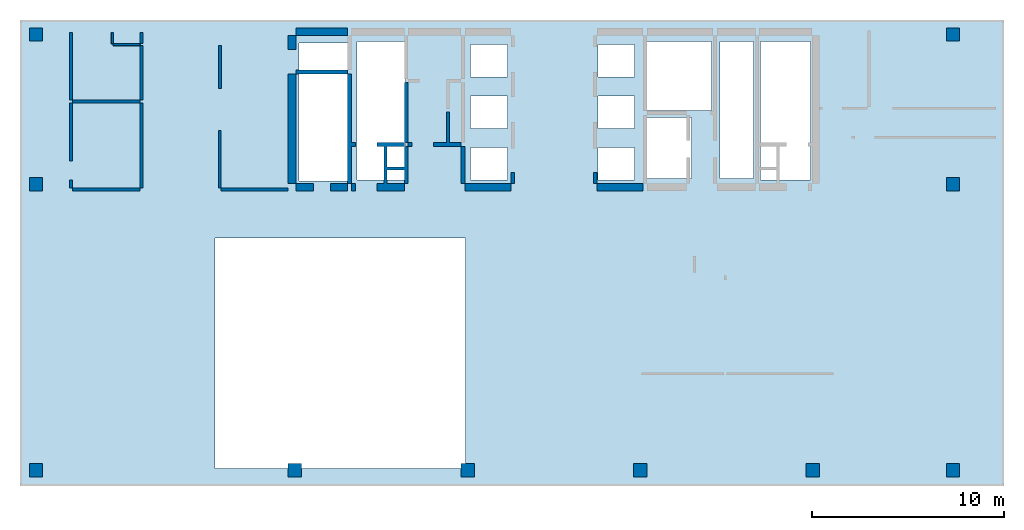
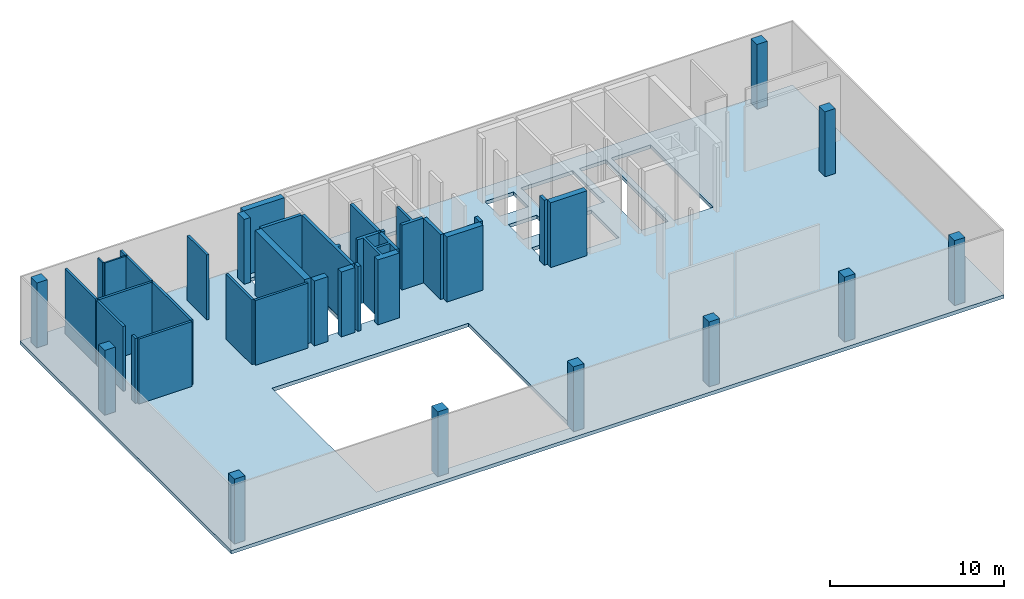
# One storey, part 1 of 3: 30 walls, 10 columns, 1 slab.
"""IFC4 building model written with IfcOpenShell, lengths in millimetres."""

from ifc_helpers import new_model, si_unit, frame, origin, place, context, project, spatial, triangles, element, save


model = new_model("IFC4")

# Units and contexts
model_context = context("Model", 3, precision=0.001, world=origin())
ifc_project = project(units=[si_unit("LENGTHUNIT", "METRE", prefix="MILLI"), si_unit("AREAUNIT", "SQUARE_METRE"), si_unit("VOLUMEUNIT", "CUBIC_METRE")], contexts=[model_context])

# Site, building, storey
site_placement = place(None, origin())
site = spatial("IfcSite", under=ifc_project, at=site_placement, Name="Site", CompositionType="ELEMENT")
building_placement = place(site_placement, origin())
building = spatial("IfcBuilding", under=site, at=building_placement, Name="INNOCEAN", CompositionType="ELEMENT")
storey_placement = place(building_placement, frame((0.0, 0.0, 11000.0)))
storey = spatial("IfcBuildingStorey", under=building, at=storey_placement, Name="F03", CompositionType="ELEMENT", Elevation=11000.0)

# Columns
column_1_placement = place(storey_placement, origin())
element("IfcColumn", 1, at=column_1_placement, inside=storey, Name="F03_Columns_F03_001", context=model_context, shape_type="Tessellation", body=[
    triangles([(40114.8, 2023.7, 0.0), (40114.8, 2722.3, 4550.0), (40114.8, 2722.3, 0.0), (40114.8, 2023.7, 4550.0), (40813.0, 2722.3, 4550.0), (40813.0, 2023.7, 0.0), (40813.0, 2722.3, 0.0), (40813.0, 2023.7, 4550.0)], [[1, 2, 3], [1, 4, 2], [5, 6, 7], [8, 6, 5], [6, 8, 1], [1, 8, 4], [5, 7, 3], [5, 3, 2], [3, 7, 1], [1, 7, 6], [5, 2, 4], [5, 4, 8]], closed=True),
])
column_2_placement = place(storey_placement, origin())
element("IfcColumn", 2, at=column_2_placement, inside=storey, Name="F03_Columns_F03_002", context=model_context, shape_type="Tessellation", body=[
    triangles([(13129.0, 2023.7, 0.0), (13129.0, 2722.3, 4550.0), (13129.0, 2722.3, 0.0), (13129.0, 2023.7, 4550.0), (13827.2, 2722.3, 4550.0), (13827.2, 2023.7, 0.0), (13827.2, 2722.3, 0.0), (13827.2, 2023.7, 4550.0)], [[1, 2, 3], [1, 4, 2], [5, 6, 7], [8, 6, 5], [6, 8, 1], [1, 8, 4], [5, 7, 3], [5, 3, 2], [3, 7, 1], [1, 7, 6], [5, 2, 4], [5, 4, 8]], closed=True),
])
column_3_placement = place(storey_placement, origin())
element("IfcColumn", 3, at=column_3_placement, inside=storey, Name="F03_Columns_F03_003", context=model_context, shape_type="Tessellation", body=[
    triangles([(-363.9, 16922.4, 0.0), (-363.9, 16922.4, 4550.0), (-363.9, 17620.9, 0.0), (-363.9, 17620.9, 4550.0), (334.3, 16922.4, 4550.0), (334.3, 16922.4, 0.0), (334.3, 17620.9, 0.0), (334.3, 17620.9, 4550.0)], [[1, 2, 3], [3, 2, 4], [5, 6, 7], [5, 7, 8], [6, 5, 1], [1, 5, 2], [8, 7, 3], [8, 3, 4], [3, 7, 1], [1, 7, 6], [8, 4, 2], [8, 2, 5]], closed=True),
])
column_4_placement = place(storey_placement, origin())
element("IfcColumn", 4, at=column_4_placement, inside=storey, Name="F03_Columns_F03_004", context=model_context, shape_type="Tessellation", body=[
    triangles([(-363.9, 2023.7, 0.0), (-363.9, 2722.3, 4550.0), (-363.9, 2722.3, 0.0), (-363.9, 2023.7, 4550.0), (334.3, 2722.3, 4550.0), (334.3, 2023.7, 0.0), (334.3, 2722.3, 0.0), (334.3, 2023.7, 4550.0)], [[1, 2, 3], [1, 4, 2], [5, 6, 7], [8, 6, 5], [6, 8, 1], [1, 8, 4], [5, 7, 3], [5, 3, 2], [3, 7, 1], [1, 7, 6], [5, 2, 4], [5, 4, 8]], closed=True),
])
column_5_placement = place(storey_placement, origin())
element("IfcColumn", 5, at=column_5_placement, inside=storey, Name="F03_Columns_F03_005", context=model_context, shape_type="Tessellation", body=[
    triangles([(-363.9, 24721.0, 0.0), (-363.9, 24721.0, 4550.0), (-363.9, 25419.5, 0.0), (-363.9, 25419.5, 4550.0), (334.3, 24721.0, 4550.0), (334.3, 24721.0, 0.0), (334.3, 25419.5, 0.0), (334.3, 25419.5, 4550.0)], [[1, 2, 3], [3, 2, 4], [5, 6, 7], [5, 7, 8], [6, 5, 1], [1, 5, 2], [8, 7, 3], [8, 3, 4], [3, 7, 1], [1, 7, 6], [8, 4, 2], [8, 2, 5]], closed=True),
])
column_6_placement = place(storey_placement, origin())
element("IfcColumn", 6, at=column_6_placement, inside=storey, Name="F03_Columns_F03_006", context=model_context, shape_type="Tessellation", body=[
    triangles([(31128.0, 2023.7, 0.0), (31128.0, 2722.3, 4550.0), (31128.0, 2722.3, 0.0), (31128.0, 2023.7, 4550.0), (31826.2, 2722.3, 4550.0), (31826.2, 2023.7, 0.0), (31826.2, 2722.3, 0.0), (31826.2, 2023.7, 4550.0)], [[1, 2, 3], [1, 4, 2], [5, 6, 7], [8, 6, 5], [6, 8, 1], [1, 8, 4], [5, 7, 3], [5, 3, 2], [3, 7, 1], [1, 7, 6], [5, 2, 4], [5, 4, 8]], closed=True),
])
column_7_placement = place(storey_placement, origin())
element("IfcColumn", 7, at=column_7_placement, inside=storey, Name="F03_Columns_F03_007", context=model_context, shape_type="Tessellation", body=[
    triangles([(22128.5, 2023.7, 0.0), (22128.5, 2722.3, 4550.0), (22128.5, 2722.3, 0.0), (22128.5, 2023.7, 4550.0), (22826.7, 2722.3, 4550.0), (22826.7, 2023.7, 0.0), (22826.7, 2722.3, 0.0), (22826.7, 2023.7, 4550.0)], [[1, 2, 3], [1, 4, 2], [5, 6, 7], [8, 6, 5], [6, 8, 1], [1, 8, 4], [5, 7, 3], [5, 3, 2], [3, 7, 1], [1, 7, 6], [5, 2, 4], [5, 4, 8]], closed=True),
])
column_8_placement = place(storey_placement, origin())
element("IfcColumn", 8, at=column_8_placement, inside=storey, Name="F03_Columns_F03_008", context=model_context, shape_type="Tessellation", body=[
    triangles([(47413.4, 24721.0, 0.0), (47413.4, 24721.0, 4550.0), (47413.4, 25419.5, 0.0), (47413.4, 25419.5, 4550.0), (48111.6, 24721.0, 4550.0), (48111.6, 24721.0, 0.0), (48111.6, 25419.5, 0.0), (48111.6, 25419.5, 4550.0)], [[1, 2, 3], [3, 2, 4], [5, 6, 7], [5, 7, 8], [6, 5, 1], [1, 5, 2], [8, 7, 3], [8, 3, 4], [1, 3, 6], [3, 7, 6], [4, 2, 5], [8, 4, 5]], closed=True),
])
column_9_placement = place(storey_placement, origin())
element("IfcColumn", 9, at=column_9_placement, inside=storey, Name="F03_Columns_F03_009", context=model_context, shape_type="Tessellation", body=[
    triangles([(47413.4, 16922.4, 0.0), (47413.4, 16922.4, 4550.0), (47413.4, 17620.9, 0.0), (47413.4, 17620.9, 4550.0), (48111.6, 16922.4, 4550.0), (48111.6, 16922.4, 0.0), (48111.6, 17620.9, 0.0), (48111.6, 17620.9, 4550.0)], [[1, 2, 3], [3, 2, 4], [5, 6, 7], [5, 7, 8], [6, 5, 1], [1, 5, 2], [8, 7, 3], [8, 3, 4], [1, 3, 6], [3, 7, 6], [4, 2, 5], [8, 4, 5]], closed=True),
])
column_10_placement = place(storey_placement, origin())
element("IfcColumn", 10, at=column_10_placement, inside=storey, Name="F03_Columns_F03_010", context=model_context, shape_type="Tessellation", body=[
    triangles([(47413.4, 2023.7, 0.0), (47413.4, 2722.3, 4550.0), (47413.4, 2722.3, 0.0), (47413.4, 2023.7, 4550.0), (48111.6, 2722.3, 4550.0), (48111.6, 2023.7, 0.0), (48111.6, 2722.3, 0.0), (48111.6, 2023.7, 4550.0)], [[1, 2, 3], [1, 4, 2], [5, 6, 7], [8, 6, 5], [6, 8, 1], [1, 8, 4], [5, 7, 3], [5, 3, 2], [3, 7, 1], [1, 7, 6], [5, 2, 4], [5, 4, 8]], closed=True),
])

# Slab
slab_placement = place(storey_placement, origin())
element("IfcSlab", 11, at=slab_placement, inside=storey, Name="F03_Slab_F03_001", context=model_context, shape_type="Tessellation", body=[
    triangles([(-846.215139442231, 25825.974025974, 0.0), (50420.3187250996, 25825.974025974, -250.0), (-846.215139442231, 25825.974025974, -250.0), (50420.3187250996, 25825.974025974, 0.0), (-846.215139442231, 1552.38095238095, 0.0), (-846.215139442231, 1552.38095238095, -250.0), (50420.3187250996, 1552.38095238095, 0.0), (50420.3187250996, 1552.38095238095, -250.0), (22354.1832669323, 14465.367965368, 0.0), (9308.36653386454, 14465.367965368, 0.0), (9308.36653386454, 14465.367965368, -250.0), (22354.1832669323, 14465.367965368, -250.0), (22354.1832669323, 2469.69696969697, 0.0), (22354.1832669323, 2469.69696969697, -250.0), (9308.36653386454, 2469.69696969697, 0.0), (9308.36653386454, 2469.69696969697, -250.0), (31168.9243027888, 19193.0735930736, 0.0), (29264.9402390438, 19193.0735930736, 0.0), (29264.9402390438, 19193.0735930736, -250.0), (31168.9243027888, 19193.0735930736, -250.0), (29264.9402390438, 17499.5670995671, 0.0), (29264.9402390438, 17499.5670995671, -250.0), (31168.9243027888, 17499.5670995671, 0.0), (31168.9243027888, 17499.5670995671, -250.0), (40336.2549800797, 24696.9696969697, -250.0), (37727.0916334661, 24696.9696969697, 0.0), (37727.0916334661, 24696.9696969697, -250.0), (40336.2549800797, 24696.9696969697, 0.0), (37727.0916334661, 17499.5670995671, 0.0), (37727.0916334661, 17499.5670995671, -250.0), (40336.2549800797, 17499.5670995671, 0.0), (40336.2549800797, 17499.5670995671, -250.0), (37374.5019920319, 24696.9696969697, 0.0), (35611.5537848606, 24696.9696969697, 0.0), (35611.5537848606, 24696.9696969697, -250.0), (37374.5019920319, 24696.9696969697, -250.0), (35611.5537848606, 17570.1298701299, 0.0), (35611.5537848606, 17570.1298701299, -250.0), (37374.5019920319, 17570.1298701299, 0.0), (37374.5019920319, 17570.1298701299, -250.0), (34130.6772908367, 20745.4545454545, -250.0), (31733.0677290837, 20745.4545454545, 0.0), (31733.0677290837, 20745.4545454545, -250.0), (34130.6772908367, 20745.4545454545, 0.0), (31733.0677290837, 17570.1298701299, 0.0), (31733.0677290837, 17570.1298701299, -250.0), (34130.6772908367, 17570.1298701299, 0.0), (34130.6772908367, 17570.1298701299, -250.0), (35188.4462151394, 24696.9696969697, 0.0), (31733.0677290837, 24696.9696969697, 0.0), (31733.0677290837, 24696.9696969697, -250.0), (35188.4462151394, 24696.9696969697, -250.0), (31733.0677290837, 21098.2683982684, 0.0), (31733.0677290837, 21098.2683982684, -250.0), (35188.4462151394, 21098.2683982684, 0.0), (35188.4462151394, 21098.2683982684, -250.0), (31168.9243027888, 21874.4588744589, 0.0), (29264.9402390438, 21874.4588744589, 0.0), (29264.9402390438, 21874.4588744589, -250.0), (31168.9243027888, 21874.4588744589, -250.0), (29264.9402390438, 20180.9523809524, 0.0), (29264.9402390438, 20180.9523809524, -250.0), (31168.9243027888, 20180.9523809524, 0.0), (31168.9243027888, 20180.9523809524, -250.0), (31168.9243027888, 24555.8441558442, 0.0), (29264.9402390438, 24555.8441558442, 0.0), (29264.9402390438, 24555.8441558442, -250.0), (31168.9243027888, 24555.8441558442, -250.0), (29264.9402390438, 22862.3376623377, 0.0), (29264.9402390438, 22862.3376623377, -250.0), (31168.9243027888, 22862.3376623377, 0.0), (31168.9243027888, 22862.3376623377, -250.0), (24540.2390438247, 19193.0735930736, -250.0), (22636.2549800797, 19193.0735930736, 0.0), (22636.2549800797, 19193.0735930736, -250.0), (24540.2390438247, 19193.0735930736, 0.0), (22636.2549800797, 17499.5670995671, 0.0), (22636.2549800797, 17499.5670995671, -250.0), (24540.2390438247, 17499.5670995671, 0.0), (24540.2390438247, 17499.5670995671, -250.0), (24540.2390438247, 21874.4588744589, -250.0), (22636.2549800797, 21874.4588744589, 0.0), (22636.2549800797, 21874.4588744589, -250.0), (24540.2390438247, 21874.4588744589, 0.0), (22636.2549800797, 20180.9523809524, 0.0), (22636.2549800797, 20180.9523809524, -250.0), (24540.2390438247, 20180.9523809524, 0.0), (24540.2390438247, 20180.9523809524, -250.0), (19251.3944223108, 24696.9696969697, 0.0), (16712.7490039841, 24696.9696969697, 0.0), (16712.7490039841, 24696.9696969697, -250.0), (19251.3944223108, 24696.9696969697, -250.0), (16712.7490039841, 17499.5670995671, 0.0), (16712.7490039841, 17499.5670995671, -250.0), (19251.3944223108, 17499.5670995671, 0.0), (19251.3944223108, 17499.5670995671, -250.0), (24540.2390438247, 24555.8441558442, -250.0), (22636.2549800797, 24555.8441558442, 0.0), (22636.2549800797, 24555.8441558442, -250.0), (24540.2390438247, 24555.8441558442, 0.0), (22636.2549800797, 22862.3376623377, 0.0), (22636.2549800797, 22862.3376623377, -250.0), (24540.2390438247, 22862.3376623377, 0.0), (24540.2390438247, 22862.3376623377, -250.0), (16219.1235059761, 24626.4069264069, 0.0), (13680.4780876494, 24626.4069264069, 0.0), (13680.4780876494, 24626.4069264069, -250.0), (16219.1235059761, 24626.4069264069, -250.0), (13680.4780876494, 17429.0043290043, 0.0), (13680.4780876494, 17429.0043290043, -250.0), (16219.1235059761, 17429.0043290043, 0.0), (16219.1235059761, 17429.0043290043, -250.0)], [[1, 2, 3], [1, 4, 2], [5, 1, 6], [6, 1, 3], [4, 7, 2], [2, 7, 8], [7, 6, 8], [7, 5, 6], [9, 10, 11], [9, 11, 12], [13, 9, 12], [13, 12, 14], [15, 13, 14], [15, 14, 16], [10, 15, 16], [10, 16, 11], [17, 18, 19], [17, 19, 20], [18, 21, 22], [18, 22, 19], [23, 17, 20], [23, 20, 24], [21, 23, 24], [21, 24, 22], [25, 26, 27], [28, 26, 25], [26, 29, 30], [26, 30, 27], [31, 28, 25], [31, 25, 32], [30, 31, 32], [29, 31, 30], [33, 34, 35], [33, 35, 36], [34, 37, 38], [34, 38, 35], [39, 33, 36], [39, 36, 40], [37, 39, 40], [37, 40, 38], [41, 42, 43], [44, 42, 41], [42, 45, 46], [42, 46, 43], [47, 44, 41], [47, 41, 48], [46, 47, 48], [45, 47, 46], [49, 50, 51], [49, 51, 52], [50, 53, 54], [50, 54, 51], [55, 49, 52], [55, 52, 56], [53, 55, 56], [53, 56, 54], [57, 58, 59], [57, 59, 60], [58, 61, 62], [58, 62, 59], [63, 57, 60], [63, 60, 64], [61, 63, 64], [61, 64, 62], [65, 66, 67], [65, 67, 68], [66, 69, 70], [66, 70, 67], [71, 65, 68], [71, 68, 72], [69, 71, 72], [69, 72, 70], [73, 74, 75], [76, 74, 73], [74, 77, 78], [74, 78, 75], [79, 76, 73], [79, 73, 80], [78, 79, 80], [77, 79, 78], [81, 82, 83], [84, 82, 81], [82, 85, 86], [82, 86, 83], [87, 84, 81], [87, 81, 88], [86, 87, 88], [85, 87, 86], [89, 90, 91], [89, 91, 92], [90, 93, 94], [90, 94, 91], [95, 89, 92], [95, 92, 96], [93, 95, 96], [93, 96, 94], [97, 98, 99], [100, 98, 97], [98, 101, 102], [98, 102, 99], [103, 100, 97], [103, 97, 104], [102, 103, 104], [101, 103, 102], [105, 106, 107], [105, 107, 108], [106, 109, 110], [106, 110, 107], [111, 105, 108], [111, 108, 112], [109, 111, 112], [109, 112, 110], [4, 31, 7], [31, 29, 7], [29, 13, 7], [39, 37, 29], [29, 37, 13], [37, 47, 13], [4, 28, 31], [47, 45, 13], [45, 23, 13], [37, 44, 47], [55, 44, 37], [45, 17, 23], [23, 21, 13], [17, 42, 63], [44, 53, 42], [42, 53, 63], [34, 49, 55], [63, 18, 17], [53, 57, 63], [63, 61, 18], [53, 71, 57], [21, 9, 13], [21, 79, 9], [50, 65, 71], [71, 69, 57], [57, 69, 58], [18, 76, 21], [61, 76, 18], [21, 76, 79], [79, 77, 9], [50, 66, 65], [61, 87, 76], [58, 87, 61], [58, 84, 87], [87, 85, 76], [76, 85, 74], [77, 95, 9], [74, 95, 77], [85, 95, 74], [69, 103, 58], [58, 103, 84], [85, 82, 95], [103, 82, 84], [66, 100, 69], [69, 100, 103], [103, 101, 82], [95, 93, 9], [93, 111, 9], [15, 5, 13], [111, 10, 9], [109, 10, 111], [15, 10, 5], [98, 89, 101], [82, 89, 95], [101, 89, 82], [90, 105, 93], [93, 105, 111], [90, 106, 105], [109, 106, 10], [10, 1, 5], [106, 1, 10], [4, 1, 28], [28, 1, 26], [26, 1, 33], [33, 1, 34], [34, 1, 49], [49, 1, 50], [50, 1, 66], [66, 1, 100], [100, 1, 98], [98, 1, 89], [89, 1, 90], [90, 1, 106], [5, 7, 13], [37, 34, 55], [33, 39, 26], [26, 39, 29], [45, 42, 17], [53, 50, 71], [55, 53, 44], [32, 2, 8], [30, 32, 8], [14, 30, 8], [38, 40, 30], [38, 30, 14], [48, 38, 14], [25, 2, 32], [46, 48, 14], [24, 46, 14], [41, 38, 48], [41, 56, 38], [20, 46, 24], [22, 24, 14], [43, 20, 64], [54, 41, 43], [54, 43, 64], [52, 35, 56], [19, 64, 20], [60, 54, 64], [62, 64, 19], [72, 54, 60], [12, 22, 14], [80, 22, 12], [68, 51, 72], [70, 72, 60], [70, 60, 59], [73, 19, 22], [73, 62, 19], [73, 22, 80], [78, 80, 12], [67, 51, 68], [88, 62, 73], [88, 59, 62], [81, 59, 88], [86, 88, 73], [86, 73, 75], [96, 78, 12], [96, 75, 78], [96, 86, 75], [104, 70, 59], [104, 59, 81], [83, 86, 96], [83, 104, 81], [97, 67, 70], [97, 70, 104], [102, 104, 83], [94, 96, 12], [112, 94, 12], [6, 16, 14], [11, 112, 12], [11, 110, 112], [11, 16, 6], [92, 99, 102], [92, 83, 96], [92, 102, 83], [108, 91, 94], [108, 94, 112], [107, 91, 108], [107, 110, 11], [3, 11, 6], [3, 107, 11], [3, 2, 25], [3, 25, 27], [3, 27, 36], [3, 36, 35], [3, 35, 52], [3, 52, 51], [3, 51, 67], [3, 67, 97], [3, 97, 99], [3, 99, 92], [3, 92, 91], [3, 91, 107], [8, 6, 14], [35, 38, 56], [40, 36, 27], [40, 27, 30], [43, 46, 20], [51, 54, 72], [54, 56, 41]], closed=True),
])

# Walls
wall_1_placement = place(storey_placement, origin())
element("IfcWall", 12, at=wall_1_placement, inside=storey, Name="F03_Walls_F03_001", context=model_context, shape_type="Tessellation", body=[
    triangles([(5411.5, 17074.8, 0.0), (1895.5, 17074.8, 0.0), (1895.5, 17074.8, 4550.0), (5411.5, 17074.8, 4550.0), (5411.5, 16922.4, 0.0), (5411.5, 16922.4, 4550.0), (1895.5, 16922.4, 0.0), (1895.5, 16922.4, 4550.0)], [[1, 2, 3], [1, 3, 4], [5, 1, 4], [5, 4, 6], [7, 5, 6], [7, 6, 8], [2, 7, 8], [2, 8, 3], [2, 1, 5], [2, 5, 7], [4, 3, 6], [6, 3, 8]], closed=True),
])
wall_2_placement = place(storey_placement, origin())
element("IfcWall", 13, at=wall_2_placement, inside=storey, Name="F03_Walls_F03_002", context=model_context, shape_type="Tessellation", body=[
    triangles([(13129.0, 16922.4, 0.0), (13129.0, 17074.8, 0.0), (13129.0, 17074.8, 4550.0), (13129.0, 16922.4, 4550.0), (9638.4, 16922.4, 0.0), (9638.4, 16922.4, 4550.0), (9638.4, 17074.8, 0.0), (9638.4, 17074.8, 4550.0)], [[1, 2, 3], [1, 3, 4], [5, 1, 4], [5, 4, 6], [7, 5, 6], [7, 6, 8], [2, 7, 8], [2, 8, 3], [7, 2, 1], [7, 1, 5], [3, 8, 4], [4, 8, 6]], closed=True),
])
wall_3_placement = place(storey_placement, origin())
element("IfcWall", 14, at=wall_3_placement, inside=storey, Name="F03_Walls_F03_003", context=model_context, shape_type="Tessellation", body=[
    triangles([(14436.4, 16922.4, 0.0), (14436.4, 17316.1, 0.0), (14436.4, 17316.1, 4550.0), (14436.4, 16922.4, 4550.0), (13535.2, 16922.4, 4550.0), (13535.2, 16922.4, 0.0), (13535.2, 17316.1, 0.0), (13535.2, 17316.1, 4550.0)], [[1, 2, 3], [1, 3, 4], [1, 4, 5], [6, 1, 5], [7, 6, 5], [7, 5, 8], [7, 8, 3], [2, 7, 3], [7, 2, 1], [7, 1, 6], [3, 8, 4], [4, 8, 5]], closed=True),
])
wall_4_placement = place(storey_placement, origin())
element("IfcWall", 15, at=wall_4_placement, inside=storey, Name="F03_Walls_F03_004", context=model_context, shape_type="Tessellation", body=[
    triangles([(16226.2, 17316.1, 0.0), (15337.6, 17316.1, 0.0), (15337.6, 17316.1, 4550.0), (16226.2, 17316.1, 4550.0), (16226.2, 16922.4, 0.0), (16226.2, 16922.4, 4550.0), (15337.6, 16922.4, 0.0), (15337.6, 16922.4, 4550.0)], [[1, 2, 3], [1, 3, 4], [5, 1, 4], [5, 4, 6], [7, 5, 6], [7, 6, 8], [2, 7, 8], [2, 8, 3], [2, 1, 5], [2, 5, 7], [4, 3, 6], [6, 3, 8]], closed=True),
])
wall_5_placement = place(storey_placement, origin())
element("IfcWall", 16, at=wall_5_placement, inside=storey, Name="F03_Walls_F03_005", context=model_context, shape_type="Tessellation", body=[
    triangles([(16632.4, 16922.4, 0.0), (16632.4, 17316.1, 0.0), (16632.4, 17316.1, 4550.0), (16632.4, 16922.4, 4550.0), (16429.3, 16922.4, 0.0), (16429.3, 16922.4, 4550.0), (16429.3, 17316.1, 0.0), (16429.3, 17316.1, 4550.0)], [[1, 2, 3], [1, 3, 4], [5, 1, 4], [5, 4, 6], [7, 5, 6], [7, 6, 8], [2, 7, 8], [2, 8, 3], [7, 2, 1], [7, 1, 5], [3, 8, 4], [4, 8, 6]], closed=True),
])
wall_6_placement = place(storey_placement, origin())
element("IfcWall", 17, at=wall_6_placement, inside=storey, Name="F03_Walls_F03_006", context=model_context, shape_type="Tessellation", body=[
    triangles([(1895.5, 17481.2, 0.0), (1895.5, 17481.2, 4550.0), (1895.5, 17074.8, 4550.0), (1895.5, 17074.8, 0.0), (1743.2, 17074.8, 0.0), (1743.2, 17074.8, 4550.0), (1743.2, 17481.2, 4550.0), (1743.2, 17481.2, 0.0)], [[1, 2, 3], [4, 1, 3], [5, 4, 3], [5, 3, 6], [5, 6, 7], [8, 5, 7], [1, 8, 7], [1, 7, 2], [8, 1, 4], [8, 4, 5], [2, 7, 3], [3, 7, 6]], closed=True),
])
wall_7_placement = place(storey_placement, origin())
element("IfcWall", 18, at=wall_7_placement, inside=storey, Name="F03_Walls_F03_007", context=model_context, shape_type="Tessellation", body=[
    triangles([(16429.3, 17316.1, 0.0), (16429.3, 19246.7, 0.0), (16429.3, 19246.7, 4550.0), (16429.3, 17316.1, 4550.0), (16226.2, 17316.1, 0.0), (16226.2, 17316.1, 4550.0), (16226.2, 19246.7, 0.0), (16226.2, 19246.7, 4550.0), (16226.2, 19449.9, 0.0), (16226.2, 19449.9, 4550.0), (16226.2, 23019.0, 0.0), (16226.2, 23019.0, 4550.0), (16429.3, 23019.0, 0.0), (16429.3, 23019.0, 4550.0), (16429.3, 19449.9, 0.0), (16429.3, 19449.9, 4550.0), (16632.4, 19449.9, 0.0), (16632.4, 19449.9, 4550.0), (16632.4, 19246.7, 0.0), (16632.4, 19246.7, 4550.0)], [[1, 2, 3], [1, 3, 4], [5, 1, 4], [5, 4, 6], [7, 5, 6], [7, 6, 8], [9, 7, 8], [9, 8, 10], [11, 9, 10], [11, 10, 12], [13, 11, 12], [13, 12, 14], [15, 13, 14], [15, 14, 16], [17, 15, 16], [17, 16, 18], [19, 17, 18], [19, 18, 20], [2, 19, 20], [2, 20, 3], [7, 2, 1], [7, 1, 5], [15, 17, 19], [15, 19, 2], [9, 15, 2], [9, 2, 7], [13, 15, 9], [11, 13, 9], [3, 8, 4], [4, 8, 6], [18, 16, 20], [20, 16, 3], [16, 10, 3], [3, 10, 8], [16, 14, 10], [14, 12, 10]], closed=True),
])
wall_8_placement = place(storey_placement, origin())
element("IfcWall", 19, at=wall_8_placement, inside=storey, Name="F03_Walls_F03_008", context=model_context, shape_type="Tessellation", body=[
    triangles([(1895.5, 18675.1, 0.0), (1895.5, 21494.8, 0.0), (1895.5, 21494.8, 4550.0), (1895.5, 18675.1, 4550.0), (1895.5, 18471.9, 0.0), (1895.5, 18471.9, 4550.0), (1743.2, 18471.9, 0.0), (1743.2, 18471.9, 4550.0), (1743.2, 18675.1, 0.0), (1743.2, 18675.1, 4550.0), (1743.2, 21494.8, 0.0), (1743.2, 21494.8, 4550.0)], [[1, 2, 3], [1, 3, 4], [5, 1, 4], [5, 4, 6], [7, 5, 6], [7, 6, 8], [9, 7, 8], [9, 8, 10], [11, 9, 10], [11, 10, 12], [2, 11, 12], [2, 12, 3], [9, 1, 5], [9, 5, 7], [11, 2, 1], [11, 1, 9], [4, 10, 6], [6, 10, 8], [3, 12, 4], [4, 12, 10]], closed=True),
])
wall_9_placement = place(storey_placement, origin())
element("IfcWall", 20, at=wall_9_placement, inside=storey, Name="F03_Walls_F03_009", context=model_context, shape_type="Tessellation", body=[
    triangles([(9638.4, 17074.8, 0.0), (9638.4, 20072.3, 0.0), (9638.4, 20072.3, 4550.0), (9638.4, 17074.8, 4550.0), (9486.1, 17074.8, 0.0), (9486.1, 17074.8, 4550.0), (9486.1, 20072.3, 0.0), (9486.1, 20072.3, 4550.0)], [[1, 2, 3], [1, 3, 4], [5, 1, 4], [5, 4, 6], [7, 5, 6], [7, 6, 8], [2, 7, 8], [2, 8, 3], [7, 2, 1], [7, 1, 5], [3, 8, 4], [4, 8, 6]], closed=True),
])
wall_10_placement = place(storey_placement, origin())
element("IfcWall", 21, at=wall_10_placement, inside=storey, Name="F03_Walls_F03_010", context=model_context, shape_type="Tessellation", body=[
    triangles([(5563.9, 17074.8, 0.0), (5563.9, 21494.8, 0.0), (5563.9, 21494.8, 4550.0), (5563.9, 17074.8, 4550.0), (5411.5, 17074.8, 4550.0), (5411.5, 17074.8, 0.0), (5411.5, 21494.8, 0.0), (5411.5, 21494.8, 4550.0)], [[1, 2, 3], [1, 3, 4], [1, 4, 5], [6, 1, 5], [7, 6, 5], [7, 5, 8], [7, 8, 3], [2, 7, 3], [7, 2, 1], [7, 1, 6], [3, 8, 4], [4, 8, 5]], closed=True),
])
wall_11_placement = place(storey_placement, origin())
element("IfcWall", 22, at=wall_11_placement, inside=storey, Name="F03_Walls_F03_011", context=model_context, shape_type="Tessellation", body=[
    triangles([(13535.2, 17316.1, 0.0), (13535.2, 23019.0, 0.0), (13535.2, 23019.0, 4550.0), (13535.2, 17316.1, 4550.0), (13129.0, 17316.1, 0.0), (13129.0, 17316.1, 4550.0), (13129.0, 23019.0, 0.0), (13129.0, 23019.0, 4550.0)], [[1, 2, 3], [1, 3, 4], [5, 1, 4], [5, 4, 6], [7, 5, 6], [7, 6, 8], [2, 7, 8], [2, 8, 3], [7, 2, 1], [7, 1, 5], [3, 8, 4], [4, 8, 6]], closed=True),
])
wall_12_placement = place(storey_placement, origin())
element("IfcWall", 23, at=wall_12_placement, inside=storey, Name="F03_Walls_F03_012", context=model_context, shape_type="Tessellation", body=[
    triangles([(5411.5, 21647.2, 0.0), (1895.5, 21647.2, 0.0), (1895.5, 21647.2, 4550.0), (5411.5, 21647.2, 4550.0), (5411.5, 21494.8, 0.0), (5411.5, 21494.8, 4550.0), (1895.5, 21494.8, 0.0), (1895.5, 21494.8, 4550.0)], [[1, 2, 3], [1, 3, 4], [5, 1, 4], [5, 4, 6], [7, 5, 6], [7, 6, 8], [2, 7, 8], [2, 8, 3], [2, 1, 5], [2, 5, 7], [4, 3, 6], [6, 3, 8]], closed=True),
])
wall_13_placement = place(storey_placement, origin())
element("IfcWall", 24, at=wall_13_placement, inside=storey, Name="F03_Walls_F03_013", context=model_context, shape_type="Tessellation", body=[
    triangles([(5563.9, 21647.2, 0.0), (5563.9, 21647.2, 4550.0), (5411.5, 21647.2, 4550.0), (5411.5, 21647.2, 0.0), (5411.5, 24492.3, 4550.0), (5411.5, 24492.3, 0.0), (5563.9, 24492.3, 4550.0), (5563.9, 24492.3, 0.0)], [[1, 2, 3], [4, 1, 3], [4, 3, 5], [6, 4, 5], [6, 5, 7], [8, 6, 7], [8, 7, 2], [1, 8, 2], [6, 1, 4], [6, 8, 1], [2, 5, 3], [7, 5, 2]], closed=True),
])
wall_14_placement = place(storey_placement, origin())
element("IfcWall", 25, at=wall_14_placement, inside=storey, Name="F03_Walls_F03_014", context=model_context, shape_type="Tessellation", body=[
    triangles([(16226.2, 23019.0, 0.0), (16226.2, 23222.2, 0.0), (16226.2, 23222.2, 4550.0), (16226.2, 23019.0, 4550.0), (13535.2, 23019.0, 0.0), (13535.2, 23019.0, 4550.0), (13535.2, 23222.2, 0.0), (13535.2, 23222.2, 4550.0)], [[1, 2, 3], [1, 3, 4], [5, 1, 4], [5, 4, 6], [7, 5, 6], [7, 6, 8], [2, 7, 8], [2, 8, 3], [7, 2, 1], [7, 1, 5], [3, 8, 4], [4, 8, 6]], closed=True),
])
wall_15_placement = place(storey_placement, origin())
element("IfcWall", 26, at=wall_15_placement, inside=storey, Name="F03_Walls_F03_015", context=model_context, shape_type="Tessellation", body=[
    triangles([(9640.0, 22270.0, 0.0), (9640.0, 24505.0, 0.0), (9640.0, 24505.0, 4550.0), (9640.0, 22270.0, 4550.0), (9638.4, 22270.0, 4550.0), (9638.4, 22270.0, 0.0), (9638.4, 22269.6, 0.0), (9638.4, 22269.6, 4550.0), (9486.1, 22269.6, 0.0), (9486.1, 22269.6, 4550.0), (9486.1, 22270.0, 0.0), (9486.1, 22270.0, 4550.0), (9485.0, 22270.0, 0.0), (9485.0, 22270.0, 4550.0), (9485.0, 24505.0, 0.0), (9485.0, 24505.0, 4550.0), (9486.1, 24505.0, 0.0), (9486.1, 24505.0, 4550.0), (9638.4, 24505.0, 0.0), (9638.4, 24505.0, 4550.0)], [[1, 2, 3], [1, 3, 4], [1, 4, 5], [6, 1, 5], [7, 6, 5], [7, 5, 8], [9, 7, 8], [9, 8, 10], [11, 9, 10], [11, 10, 12], [13, 11, 12], [13, 12, 14], [15, 13, 14], [15, 14, 16], [17, 15, 16], [17, 16, 18], [19, 17, 18], [19, 18, 20], [19, 20, 3], [2, 19, 3], [11, 6, 7], [11, 7, 9], [2, 1, 6], [19, 2, 6], [19, 6, 11], [17, 11, 13], [17, 19, 11], [15, 17, 13], [5, 12, 8], [8, 12, 10], [4, 3, 5], [3, 20, 5], [5, 20, 12], [12, 18, 14], [20, 18, 12], [18, 16, 14]], closed=True),
])
wall_16_placement = place(storey_placement, origin())
element("IfcWall", 27, at=wall_16_placement, inside=storey, Name="F03_Walls_F03_016", context=model_context, shape_type="Tessellation", body=[
    triangles([(1895.5, 25165.5, 0.0), (1895.5, 25165.5, 4550.0), (1895.5, 21647.2, 4550.0), (1895.5, 21647.2, 0.0), (1743.2, 21647.2, 0.0), (1743.2, 21647.2, 4550.0), (1743.2, 25165.5, 4550.0), (1743.2, 25165.5, 0.0)], [[1, 2, 3], [4, 1, 3], [5, 4, 3], [5, 3, 6], [5, 6, 7], [8, 5, 7], [1, 8, 7], [1, 7, 2], [8, 1, 4], [8, 4, 5], [2, 7, 3], [3, 7, 6]], closed=True),
])
wall_17_placement = place(storey_placement, origin())
element("IfcWall", 28, at=wall_17_placement, inside=storey, Name="F03_Walls_F03_018", context=model_context, shape_type="Tessellation", body=[
    triangles([(5411.5, 24593.9, 0.0), (5411.5, 24593.9, 4550.0), (5411.5, 24492.3, 4550.0), (5411.5, 24492.3, 0.0), (4015.3, 24492.3, 0.0), (4015.3, 24492.3, 4550.0), (4015.3, 24593.9, 4550.0), (4015.3, 24593.9, 0.0)], [[1, 2, 3], [4, 1, 3], [5, 4, 3], [5, 3, 6], [5, 6, 7], [8, 5, 7], [1, 8, 7], [1, 7, 2], [8, 1, 4], [8, 4, 5], [2, 7, 3], [3, 7, 6]], closed=True),
])
wall_18_placement = place(storey_placement, origin())
element("IfcWall", 29, at=wall_18_placement, inside=storey, Name="F03_Walls_F03_019", context=model_context, shape_type="Tessellation", body=[
    triangles([(13535.2, 24276.4, 0.0), (13535.2, 25025.8, 0.0), (13535.2, 25025.8, 4550.0), (13535.2, 24276.4, 4550.0), (13129.0, 24276.4, 0.0), (13129.0, 24276.4, 4550.0), (13129.0, 25025.8, 0.0), (13129.0, 25025.8, 4550.0)], [[1, 2, 3], [1, 3, 4], [5, 1, 4], [5, 4, 6], [7, 5, 6], [7, 6, 8], [2, 7, 8], [2, 8, 3], [2, 1, 5], [7, 2, 5], [4, 3, 6], [3, 8, 6]], closed=True),
])
wall_19_placement = place(storey_placement, origin())
element("IfcWall", 30, at=wall_19_placement, inside=storey, Name="F03_Walls_F03_020", context=model_context, shape_type="Tessellation", body=[
    triangles([(5411.5, 25102.0, 0.0), (5411.5, 24593.9, 0.0), (5411.5, 24593.9, 4550.0), (5411.5, 25102.0, 4550.0), (5411.5, 25165.5, 4550.0), (5411.5, 25165.5, 0.0), (5563.9, 25165.5, 4550.0), (5563.9, 25165.5, 0.0), (5563.9, 25102.0, 4550.0), (5563.9, 25102.0, 0.0), (5563.9, 24593.9, 0.0), (5563.9, 24593.9, 4550.0)], [[1, 2, 3], [1, 3, 4], [1, 4, 5], [6, 1, 5], [6, 5, 7], [8, 6, 7], [8, 7, 9], [10, 8, 9], [11, 10, 9], [11, 9, 12], [11, 12, 3], [2, 11, 3], [1, 10, 11], [1, 11, 2], [6, 8, 10], [6, 10, 1], [9, 4, 12], [12, 4, 3], [7, 5, 9], [9, 5, 4]], closed=True),
])
wall_20_placement = place(storey_placement, origin())
element("IfcWall", 31, at=wall_20_placement, inside=storey, Name="F03_Walls_F03_021", context=model_context, shape_type="Tessellation", body=[
    triangles([(4015.3, 25165.5, 0.0), (4015.3, 25165.5, 4550.0), (4015.3, 24593.9, 4550.0), (4015.3, 24593.9, 0.0), (3913.7, 24593.9, 4550.0), (3913.7, 24593.9, 0.0), (3913.7, 25165.5, 4550.0), (3913.7, 25165.5, 0.0)], [[1, 2, 3], [4, 1, 3], [4, 3, 5], [6, 4, 5], [6, 5, 7], [8, 6, 7], [8, 7, 2], [1, 8, 2], [1, 4, 6], [8, 1, 6], [3, 2, 5], [2, 7, 5]], closed=True),
])
wall_21_placement = place(storey_placement, origin())
element("IfcWall", 32, at=wall_21_placement, inside=storey, Name="F03_Walls_F03_022", context=model_context, shape_type="Tessellation", body=[
    triangles([(16226.2, 25025.8, 0.0), (16226.2, 25419.5, 0.0), (16226.2, 25419.5, 4550.0), (16226.2, 25025.8, 4550.0), (13535.2, 25025.8, 0.0), (13535.2, 25025.8, 4550.0), (13535.2, 25419.5, 0.0), (13535.2, 25419.5, 4550.0)], [[1, 2, 3], [1, 3, 4], [5, 1, 4], [5, 4, 6], [7, 5, 6], [7, 6, 8], [2, 7, 8], [2, 8, 3], [5, 2, 1], [7, 2, 5], [3, 6, 4], [3, 8, 6]], closed=True),
])
wall_22_placement = place(storey_placement, origin())
element("IfcWall", 33, at=wall_22_placement, inside=storey, Name="F03_Walls_F03_023", context=model_context, shape_type="Tessellation", body=[
    triangles([(18130.2, 19245.0, 0.0), (18130.0, 19245.0, 0.0), (18130.0, 19245.0, 4550.0), (18130.2, 19245.0, 4550.0), (18130.0, 17316.1, 0.0), (18130.0, 17316.1, 4550.0), (17749.4, 17316.1, 0.0), (17749.4, 17316.1, 4550.0), (17749.4, 16922.4, 0.0), (17749.4, 16922.4, 4550.0), (19183.7, 16922.4, 0.0), (19183.7, 16922.4, 4550.0), (19183.7, 17316.1, 0.0), (19183.7, 17316.1, 4550.0), (19374.1, 17316.1, 0.0), (19374.1, 17316.1, 4550.0), (19374.1, 19246.7, 0.0), (19374.1, 19246.7, 4550.0), (19183.7, 19246.7, 0.0), (19183.7, 19246.7, 4550.0), (19183.7, 19449.9, 0.0), (19183.7, 19449.9, 4550.0), (17749.4, 19449.9, 0.0), (17749.4, 19449.9, 4550.0), (17749.4, 19246.7, 0.0), (17749.4, 19246.7, 4550.0), (18130.2, 19246.7, 0.0), (18130.2, 19246.7, 4550.0), (18282.5, 17316.1, 0.0), (18282.5, 17316.1, 4550.0), (18282.5, 18014.7, 0.0), (18282.5, 18014.7, 4550.0), (19183.7, 18014.7, 0.0), (19183.7, 18014.7, 4550.0), (19183.7, 18167.1, 0.0), (19183.7, 18167.1, 4550.0), (18282.5, 18167.1, 0.0), (18282.5, 18167.1, 4550.0), (18282.5, 19246.7, 0.0), (18282.5, 19246.7, 4550.0)], [[1, 2, 3], [1, 3, 4], [2, 5, 6], [2, 6, 3], [5, 7, 8], [5, 8, 6], [7, 9, 10], [7, 10, 8], [9, 11, 12], [9, 12, 10], [11, 13, 14], [11, 14, 12], [15, 16, 14], [13, 15, 14], [15, 17, 18], [15, 18, 16], [19, 20, 18], [17, 19, 18], [19, 21, 22], [19, 22, 20], [21, 23, 24], [21, 24, 22], [23, 25, 26], [23, 26, 24], [25, 27, 28], [25, 28, 26], [27, 1, 4], [27, 4, 28], [13, 29, 30], [13, 30, 14], [29, 31, 32], [29, 32, 30], [31, 33, 34], [31, 34, 32], [33, 13, 14], [33, 14, 34], [19, 35, 36], [19, 36, 20], [35, 37, 38], [35, 38, 36], [37, 39, 40], [37, 40, 38], [39, 19, 20], [39, 20, 40], [33, 15, 13], [35, 15, 33], [29, 13, 11], [9, 29, 11], [5, 29, 9], [7, 5, 9], [31, 35, 33], [31, 29, 5], [17, 15, 35], [37, 35, 31], [19, 17, 35], [39, 21, 19], [1, 39, 37], [2, 1, 37], [27, 39, 1], [23, 27, 25], [23, 21, 39], [23, 39, 27], [5, 2, 37], [5, 37, 31], [16, 34, 14], [16, 36, 34], [14, 30, 12], [30, 10, 12], [30, 6, 10], [6, 8, 10], [36, 32, 34], [30, 32, 6], [16, 18, 36], [36, 38, 32], [18, 20, 36], [22, 40, 20], [40, 4, 38], [4, 3, 38], [40, 28, 4], [28, 24, 26], [22, 24, 40], [40, 24, 28], [3, 6, 38], [38, 6, 32]], closed=True),
])
wall_23_placement = place(storey_placement, origin())
element("IfcWall", 34, at=wall_23_placement, inside=storey, Name="F03_Walls_F03_024", context=model_context, shape_type="Tessellation", body=[
    triangles([(24730.6, 16922.4, 0.0), (24730.6, 17316.1, 0.0), (24730.6, 17316.1, 4550.0), (24730.6, 16922.4, 4550.0), (22331.6, 16922.4, 4550.0), (22331.6, 16922.4, 0.0), (22331.6, 17316.1, 0.0), (22331.6, 17316.1, 4550.0)], [[1, 2, 3], [1, 3, 4], [1, 4, 5], [6, 1, 5], [7, 6, 5], [7, 5, 8], [7, 8, 3], [2, 7, 3], [7, 2, 1], [7, 1, 6], [3, 8, 4], [4, 8, 5]], closed=True),
])
wall_24_placement = place(storey_placement, origin())
element("IfcWall", 35, at=wall_24_placement, inside=storey, Name="F03_Walls_F03_025", context=model_context, shape_type="Tessellation", body=[
    triangles([(22331.6, 17316.1, 0.0), (22331.6, 19246.7, 0.0), (22331.6, 19246.7, 4550.0), (22331.6, 17316.1, 4550.0), (22128.5, 17316.1, 0.0), (22128.5, 17316.1, 4550.0), (22128.5, 19246.7, 0.0), (22128.5, 19246.7, 4550.0)], [[1, 2, 3], [1, 3, 4], [5, 1, 4], [5, 4, 6], [7, 5, 6], [7, 6, 8], [2, 7, 8], [2, 8, 3], [7, 2, 1], [7, 1, 5], [3, 8, 4], [4, 8, 6]], closed=True),
])
wall_25_placement = place(storey_placement, origin())
element("IfcWall", 36, at=wall_25_placement, inside=storey, Name="F03_Walls_F03_026", context=model_context, shape_type="Tessellation", body=[
    triangles([(19577.2, 19246.7, 0.0), (19577.2, 19449.9, 0.0), (19577.2, 19449.9, 4550.0), (19577.2, 19246.7, 4550.0), (19374.1, 19246.7, 0.0), (19374.1, 19246.7, 4550.0), (19374.1, 19449.9, 0.0), (19374.1, 19449.9, 4550.0)], [[1, 2, 3], [1, 3, 4], [5, 1, 4], [5, 4, 6], [7, 5, 6], [7, 6, 8], [2, 7, 8], [2, 8, 3], [7, 2, 1], [7, 1, 5], [3, 8, 4], [4, 8, 6]], closed=True),
])
wall_26_placement = place(storey_placement, origin())
element("IfcWall", 37, at=wall_26_placement, inside=storey, Name="F03_Walls_F03_027", context=model_context, shape_type="Tessellation", body=[
    triangles([(21366.9, 21024.9, 0.0), (21366.9, 19449.9, 0.0), (21366.9, 19449.9, 4550.0), (21366.9, 21024.9, 4550.0), (21519.3, 21024.9, 0.0), (21519.3, 21024.9, 4550.0), (21519.3, 19449.9, 0.0), (21519.3, 19449.9, 4550.0), (22128.5, 19449.9, 0.0), (22128.5, 19449.9, 4550.0), (22128.5, 19246.7, 0.0), (22128.5, 19246.7, 4550.0), (20694.2, 19246.7, 0.0), (20694.2, 19246.7, 4550.0), (20694.2, 19449.9, 0.0), (20694.2, 19449.9, 4550.0)], [[1, 2, 3], [1, 3, 4], [5, 1, 4], [5, 4, 6], [7, 5, 6], [7, 6, 8], [9, 7, 8], [9, 8, 10], [11, 9, 10], [11, 10, 12], [13, 11, 12], [13, 12, 14], [15, 13, 14], [15, 14, 16], [2, 15, 16], [2, 16, 3], [7, 9, 11], [2, 7, 11], [13, 2, 11], [15, 2, 13], [1, 5, 7], [1, 7, 2], [10, 8, 12], [8, 3, 12], [3, 14, 12], [3, 16, 14], [6, 4, 8], [8, 4, 3]], closed=True),
])
wall_27_placement = place(storey_placement, origin())
element("IfcWall", 38, at=wall_27_placement, inside=storey, Name="F03_Walls_F03_029", context=model_context, shape_type="Tessellation", body=[
    triangles([(19374.1, 19449.9, 0.0), (19374.1, 22574.4, 0.0), (19374.1, 22574.4, 4550.0), (19374.1, 19449.9, 4550.0), (19183.7, 19449.9, 4550.0), (19183.7, 19449.9, 0.0), (19183.7, 22574.4, 0.0), (19183.7, 22574.4, 4550.0)], [[1, 2, 3], [1, 3, 4], [1, 4, 5], [6, 1, 5], [7, 6, 5], [7, 5, 8], [7, 8, 3], [2, 7, 3], [2, 1, 6], [7, 2, 6], [4, 3, 5], [3, 8, 5]], closed=True),
])
wall_28_placement = place(storey_placement, origin())
element("IfcWall", 39, at=wall_28_placement, inside=storey, Name="F03_Walls_F03_042", context=model_context, shape_type="Tessellation", body=[
    triangles([(31623.1, 17316.1, 0.0), (29224.0, 17316.1, 0.0), (29224.0, 17316.1, 4550.0), (31623.1, 17316.1, 4550.0), (31623.1, 16922.4, 0.0), (31623.1, 16922.4, 4550.0), (29224.0, 16922.4, 0.0), (29224.0, 16922.4, 4550.0)], [[1, 2, 3], [1, 3, 4], [5, 1, 4], [5, 4, 6], [7, 5, 6], [7, 6, 8], [2, 7, 8], [2, 8, 3], [2, 1, 5], [2, 5, 7], [4, 3, 6], [6, 3, 8]], closed=True),
])
wall_29_placement = place(storey_placement, origin())
element("IfcWall", 40, at=wall_29_placement, inside=storey, Name="F03_Walls_F03_045", context=model_context, shape_type="Tessellation", body=[
    triangles([(24730.6, 17875.0, 0.0), (24730.6, 17875.0, 4550.0), (24921.0, 17875.0, 4550.0), (24921.0, 17875.0, 0.0), (24921.0, 17316.1, 0.0), (24921.0, 17316.1, 4550.0), (24730.6, 17316.1, 4550.0), (24730.6, 17316.1, 0.0)], [[1, 2, 3], [4, 1, 3], [5, 4, 3], [5, 3, 6], [5, 6, 7], [8, 5, 7], [1, 8, 7], [1, 7, 2], [1, 4, 5], [1, 5, 8], [3, 2, 6], [6, 2, 7]], closed=True),
])
wall_30_placement = place(storey_placement, origin())
element("IfcWall", 41, at=wall_30_placement, inside=storey, Name="F03_Walls_F03_046", context=model_context, shape_type="Tessellation", body=[
    triangles([(29224.0, 17316.1, 0.0), (29224.0, 17875.0, 0.0), (29224.0, 17875.0, 4550.0), (29224.0, 17316.1, 4550.0), (29020.9, 17316.1, 0.0), (29020.9, 17316.1, 4550.0), (29020.9, 17875.0, 0.0), (29020.9, 17875.0, 4550.0)], [[1, 2, 3], [1, 3, 4], [5, 1, 4], [5, 4, 6], [7, 5, 6], [7, 6, 8], [2, 7, 8], [2, 8, 3], [7, 2, 1], [7, 1, 5], [3, 8, 4], [4, 8, 6]], closed=True),
])

save(model, "model.ifc")
